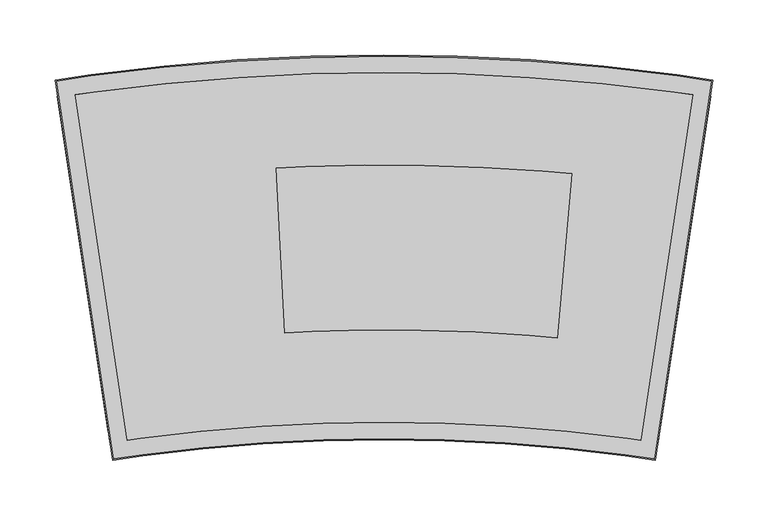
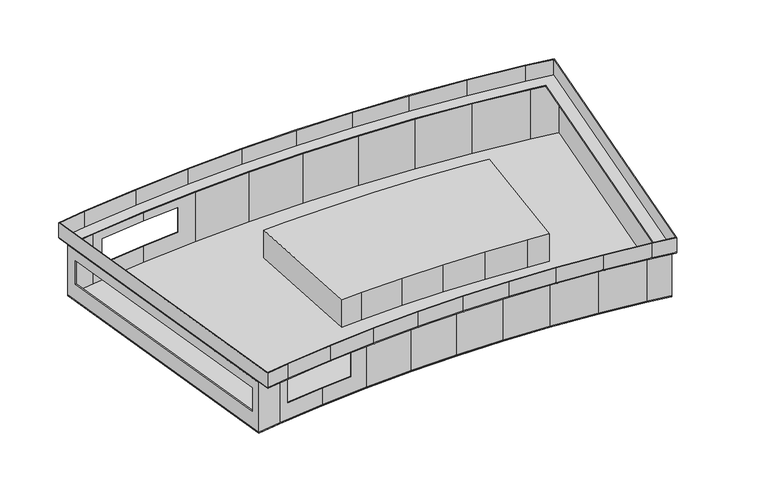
"""IFC4 building model written with IfcOpenShell, lengths in millimetres: proxy geometry, Techno_Конвектор встраиваемый_Usual_KVZ_R-350_85 : KVZ R 350-85_Л."""

from ifc_helpers import new_model, si_unit, frame, origin, place, context, project, spatial, polyline, ellipse_curve, outline, extrude, faceted_brep, source, transform, mapped, element, save
from ifc_brep_helpers import plane_surface, cylinder_surface, advanced_brep


def mechanical_equipment_df592ec2(model_context):
    return source(origin(), model_context, "Body", "SolidModel", [
        extrude(outline(polyline([(670.7692435, 67.3101927), (657.2874611, -82.0827172), (632.6097728, -79.8557091), (583.1480789, -76.800828), (533.6197227, -75.1475313), (484.0644126, -74.8971445), (434.5218784, -76.0498682), (409.7768593, -77.3273233), (402.0434472, 72.4731918), (428.909468, 73.8601431), (482.6985051, 75.1116717), (536.5014132, 74.8398231), (590.2750571, 73.0448153), (643.9763248, 69.7280873), (670.7692435, 67.3101927)])), frame((0.0, 0.0, -66.5), z_axis=(0.0, 0.0, 1.0), x_axis=(1.0, 0.0, 0.0)), (0.0, 0.0, 1.0), 35.0),
        extrude(outline(polyline([(796.6645806, 137.9083439), (748.7846029, -178.8939095), (721.3469609, -174.7471154), (666.2257584, -168.2869719), (610.9198778, -163.6674503), (555.4907642, -160.8936827), (500.0, -159.968751), (444.5092358, -160.8936827), (389.0801222, -163.6674503), (333.7742416, -168.2869719), (278.6530391, -174.7471154), (251.2153971, -178.8939095), (203.3354194, 137.9083439), (236.053588, 142.8532115), (301.7831718, 150.5566454), (367.7329761, 156.0652197), (433.8297302, 159.3728142), (500.0, 160.4757541), (566.1702698, 159.3728142), (632.2670239, 156.0652197), (698.2168282, 150.5566454), (763.946412, 142.8532115), (796.6645806, 137.9083439)])), frame((0.0, 0.0, -85.0), z_axis=(0.0, 0.0, 1.0), x_axis=(1.0, 0.0, 0.0)), (0.0, 0.0, 1.0), 1.2),
        faceted_brep([(203.3354194, 137.9083439, -20.5), (203.3354194, 137.9083439, -85.0), (251.2153971, -178.8939095, -85.0), (251.2153971, -178.8939095, -20.5), (205.3080028, 124.8565657, -33.0), (249.54169, -167.8196734, -33.0), (249.54169, -167.8196734, -63.0), (205.3080028, 124.8565657, -63.0), (748.7846029, -178.8939095, -20.5), (748.7846029, -178.8939095, -85.0), (796.6645806, 137.9083439, -85.0), (796.6645806, 137.9083439, -20.5), (204.7012705, 136.9011444, -85.0), (204.7012705, 136.9011444, -20.5), (252.2225966, -177.5280584, -20.5), (252.2225966, -177.5280584, -85.0), (250.7282153, -167.6403476, -33.0), (206.4945281, 125.0358914, -33.0), (206.4945281, 125.0358914, -63.0), (250.7282153, -167.6403476, -63.0), (747.7774034, -177.5280584, -85.0), (747.7774034, -177.5280584, -20.5), (795.2987295, 136.9011444, -20.5), (795.2987295, 136.9011444, -85.0), (278.6530391, -174.7471154, -85.0), (278.6530391, -174.7471154, -20.5), (278.4737134, -173.5605901, -20.5), (278.4737134, -173.5605901, -85.0), (333.7742416, -168.2869719, -85.0), (333.7742416, -168.2869719, -63.0), (288.1749289, -173.6311606, -63.0), (288.1749289, -173.6311606, -31.0), (333.7742416, -168.2869719, -31.0), (333.7742416, -168.2869719, -20.5), (333.634559, -167.0951293, -20.5), (333.634559, -167.0951293, -31.0), (288.0222438, -172.4408418, -31.0), (288.0222438, -172.4408418, -63.0), (333.634559, -167.0951293, -63.0), (333.634559, -167.0951293, -85.0), (389.0801222, -163.6674503, -85.0), (389.0801222, -163.6674503, -20.5), (370.4764869, -165.2213519, -31.0), (370.4764869, -165.2213519, -63.0), (388.9802379, -162.4716145, -20.5), (388.9802379, -162.4716145, -85.0), (370.3831254, -164.0249713, -63.0), (370.3831254, -164.0249713, -31.0), (444.5092358, -160.8936827, -85.0), (444.5092358, -160.8936827, -20.5), (444.4492608, -159.6951824, -20.5), (444.4492608, -159.6951824, -85.0), (500.0, -159.968751, -85.0), (500.0, -159.968751, -20.5), (499.9800009, -158.7689177, -20.5), (499.9800009, -158.7689177, -85.0), (555.4907642, -160.8936827, -85.0), (555.4907642, -160.8936827, -20.5), (555.5107633, -159.6938494, -20.5), (555.5107633, -159.6938494, -85.0), (610.9198778, -163.6674503, -85.0), (610.9198778, -163.6674503, -20.5), (610.9798528, -162.4689499, -20.5), (610.9798528, -162.4689499, -85.0), (666.2257584, -168.2869719, -85.0), (666.2257584, -168.2869719, -20.5), (666.3256427, -167.0911362, -20.5), (666.3256427, -167.0911362, -85.0), (721.3469609, -174.7471154, -85.0), (721.3469609, -174.7471154, -20.5), (721.4866435, -173.5552728, -20.5), (721.4866435, -173.5552728, -85.0), (763.946412, 142.8532115, -85.0), (763.946412, 142.8532115, -20.5), (763.7670862, 141.6666862, -20.5), (763.7670862, 141.6666862, -85.0), (698.2168282, 150.5566454, -85.0), (698.2168282, 150.5566454, -20.5), (698.0771456, 149.3648028, -20.5), (698.0771456, 149.3648028, -85.0), (632.2670239, 156.0652197, -85.0), (632.2670239, 156.0652197, -20.5), (632.1671396, 154.8693839, -20.5), (632.1671396, 154.8693839, -85.0), (566.1702698, 159.3728142, -85.0), (566.1702698, 159.3728142, -20.5), (566.1102948, 158.1743139, -20.5), (566.1102948, 158.1743139, -85.0), (500.0, 160.4757541, -85.0), (500.0, 160.4757541, -20.5), (499.9800009, 159.2759208, -20.5), (499.9800009, 159.2759208, -85.0), (433.8297302, 159.3728142, -85.0), (433.8297302, 159.3728142, -20.5), (433.8497293, 158.1729808, -20.5), (433.8497293, 158.1729808, -85.0), (367.7329761, 156.0652197, -85.0), (367.7329761, 156.0652197, -20.5), (367.7929511, 154.8667194, -20.5), (367.7929511, 154.8667194, -85.0), (301.7831718, 150.5566454, -85.0), (301.7831718, 150.5566454, -63.0), (345.5489679, 154.2122611, -63.0), (345.5489679, 154.2122611, -31.0), (301.7831718, 150.5566454, -31.0), (301.7831718, 150.5566454, -20.5), (301.8830561, 149.3608097, -20.5), (301.8830561, 149.3608097, -31.0), (345.6423294, 153.0158805, -31.0), (345.6423294, 153.0158805, -63.0), (301.8830561, 149.3608097, -63.0), (301.8830561, 149.3608097, -85.0), (236.053588, 142.8532115, -85.0), (236.053588, 142.8532115, -20.5), (247.4080183, 144.183938, -31.0), (247.4080183, 144.183938, -63.0), (236.1932706, 141.6613689, -20.5), (236.1932706, 141.6613689, -85.0), (247.5607033, 142.9936193, -63.0), (247.5607033, 142.9936193, -31.0)], [[[0, 1, 2, 3], [4, 5, 6, 7]], [[8, 9, 10, 11]], [[12, 13, 14, 15], [16, 17, 18, 19]], [[20, 21, 22, 23]], [[3, 2, 24, 25]], [[15, 14, 26, 27]], [[25, 24, 28, 29, 30, 31, 32, 33]], [[27, 26, 34, 35, 36, 37, 38, 39]], [[28, 40, 41, 33, 32, 42, 43, 29]], [[34, 44, 45, 39, 38, 46, 47, 35]], [[41, 40, 48, 49]], [[45, 44, 50, 51]], [[49, 48, 52, 53]], [[51, 50, 54, 55]], [[53, 52, 56, 57]], [[55, 54, 58, 59]], [[57, 56, 60, 61]], [[59, 58, 62, 63]], [[61, 60, 64, 65]], [[63, 62, 66, 67]], [[65, 64, 68, 69]], [[67, 66, 70, 71]], [[9, 8, 69, 68]], [[21, 20, 71, 70]], [[11, 10, 72, 73]], [[23, 22, 74, 75]], [[73, 72, 76, 77]], [[75, 74, 78, 79]], [[77, 76, 80, 81]], [[79, 78, 82, 83]], [[81, 80, 84, 85]], [[83, 82, 86, 87]], [[85, 84, 88, 89]], [[87, 86, 90, 91]], [[89, 88, 92, 93]], [[91, 90, 94, 95]], [[93, 92, 96, 97]], [[95, 94, 98, 99]], [[97, 96, 100, 101, 102, 103, 104, 105]], [[99, 98, 106, 107, 108, 109, 110, 111]], [[100, 112, 113, 105, 104, 114, 115, 101]], [[106, 116, 117, 111, 110, 118, 119, 107]], [[1, 0, 113, 112]], [[13, 12, 117, 116]], [[0, 3, 25, 33, 41, 49, 53, 57, 61, 65, 69, 8, 11, 73, 77, 81, 85, 89, 93, 97, 105, 113], [14, 13, 116, 106, 98, 94, 90, 86, 82, 78, 74, 22, 21, 70, 66, 62, 58, 54, 50, 44, 34, 26]], [[2, 1, 112, 100, 96, 92, 88, 84, 80, 76, 72, 10, 9, 68, 64, 60, 56, 52, 48, 40, 28, 24], [12, 15, 27, 39, 45, 51, 55, 59, 63, 67, 71, 20, 23, 75, 79, 83, 87, 91, 95, 99, 111, 117]], [[4, 17, 16, 5]], [[6, 19, 18, 7]], [[19, 6, 5, 16]], [[17, 4, 7, 18]], [[42, 47, 46, 43]], [[108, 103, 102, 109]], [[43, 46, 38, 37, 30, 29]], [[109, 102, 101, 115, 118, 110]], [[47, 42, 32, 31, 36, 35]], [[103, 108, 107, 119, 114, 104]], [[30, 37, 36, 31]], [[118, 115, 114, 119]]]),
        advanced_brep(
        [(780.6649176, 139.1128287, -19.3), (780.6649176, 139.1128287, -20.5), (733.1435915, -175.316374, -20.5), (733.1435915, -175.316374, -19.3), (797.5104139, 151.5349563, 0.0), (797.5104139, 151.5349563, -19.3), (745.565719, -192.1618704, -19.3), (745.565719, -192.1618704, 0.0), (798.8762649, 152.5421559, -18.5), (798.8762649, 152.5421559, 0.0), (746.5729186, -193.5277214, 0.0), (746.5729186, -193.5277214, -18.5), (266.8564085, -175.316374, -19.3), (266.8564085, -175.316374, -20.5), (219.3350824, 139.1128287, -20.5), (219.3350824, 139.1128287, -19.3), (254.434281, -192.1618704, 0.0), (254.434281, -192.1618704, -19.3), (202.4895861, 151.5349563, -19.3), (202.4895861, 151.5349563, 0.0), (253.4270814, -193.5277214, -18.5), (253.4270814, -193.5277214, 0.0), (201.1237351, 152.5421559, 0.0), (201.1237351, 152.5421559, -18.5), (796.5998465, 150.86349, -20.5), (744.8942527, -191.251303, -20.5), (255.1057473, -191.251303, -20.5), (203.4001535, 150.86349, -20.5), (234.0858231, 157.5238882, -18.5), (234.3517373, 155.5413643, -20.5), (236.2131365, 141.6636971, -20.5), (236.2131365, 141.6636971, -19.3), (234.2453716, 156.3343739, -19.3), (234.2453716, 156.3343739, 0.0), (234.0858231, 157.5238882, 0.0), (300.305432, 165.2847526, -18.5), (300.5051266, 163.2944678, -20.5), (301.9029885, 149.3624746, -20.5), (301.9029885, 149.3624746, -19.3), (300.4252487, 164.0905817, -19.3), (300.4252487, 164.0905817, 0.0), (300.305432, 165.2847526, 0.0), (719.379196, -189.4177922, -18.5), (719.6451101, -187.4352683, -20.5), (721.5065094, -173.5576011, -20.5), (721.5065094, -173.5576011, -19.3), (719.5387445, -188.2282779, -19.3), (719.5387445, -188.2282779, 0.0), (719.379196, -189.4177922, 0.0), (664.7480186, -183.0150791, -18.5), (664.9477132, -181.0247944, -20.5), (666.3455752, -167.0928011, -20.5), (666.3455752, -167.0928011, -19.3), (664.8678353, -181.8209083, -19.3), (664.8678353, -181.8209083, 0.0), (664.7480186, -183.0150791, 0.0), (366.7469032, 170.8343942, -18.5), (366.8801563, 168.8385598, -20.5), (367.812928, 154.8677191, -20.5), (367.812928, 154.8677191, -19.3), (366.8268551, 169.6368936, -19.3), (366.8268551, 169.6368936, 0.0), (366.7469032, 170.8343942, 0.0), (609.9338049, -178.4366248, -18.5), (610.067058, -176.4407904, -20.5), (610.9998296, -162.4699496, -20.5), (610.9998296, -162.4699496, -19.3), (610.0137567, -177.2391241, -19.3), (610.0137567, -177.2391241, 0.0), (609.9338049, -178.4366248, 0.0), (433.3364197, 174.1666474, -18.5), (433.4030833, 172.1674807, -20.5), (433.8697284, 158.1733142, -20.5), (433.8697284, 158.1733142, -19.3), (433.3764179, 172.9671474, -19.3), (433.3764179, 172.9671474, 0.0), (433.3364197, 174.1666474, 0.0), (500.0, 175.2778099, -18.5), (500.0, 173.2775321, -20.5), (500.0, 159.2755875, -20.5), (500.0, 159.2755875, -19.3), (500.0, 174.0776432, -19.3), (500.0, 174.0776432, 0.0), (500.0, 175.2778099, 0.0), (554.9974537, -175.6875159, -18.5), (555.0641173, -173.6883493, -20.5), (555.5307624, -159.6941827, -20.5), (555.5307624, -159.6941827, -19.3), (555.0374519, -174.4880159, -19.3), (555.0374519, -174.4880159, 0.0), (554.9974537, -175.6875159, 0.0), (500.0, -174.7708068, -18.5), (500.0, -172.770529, -20.5), (500.0, -158.7685843, -20.5), (500.0, -158.7685843, -19.3), (500.0, -173.5706401, -19.3), (500.0, -173.5706401, 0.0), (500.0, -174.7708068, 0.0), (566.6635803, 174.1666474, -18.5), (566.5969167, 172.1674807, -20.5), (566.1302716, 158.1733142, -20.5), (566.1302716, 158.1733142, -19.3), (566.6235821, 172.9671474, -19.3), (566.6235821, 172.9671474, 0.0), (566.6635803, 174.1666474, 0.0), (633.2530968, 170.8343942, -18.5), (633.1198437, 168.8385598, -20.5), (632.187072, 154.8677191, -20.5), (632.187072, 154.8677191, -19.3), (633.1731449, 169.6368936, -19.3), (633.1731449, 169.6368936, 0.0), (633.2530968, 170.8343942, 0.0), (699.694568, 165.2847526, -18.5), (699.4948734, 163.2944678, -20.5), (698.0970115, 149.3624746, -20.5), (698.0970115, 149.3624746, -19.3), (699.5747513, 164.0905817, -19.3), (699.5747513, 164.0905817, 0.0), (699.694568, 165.2847526, 0.0), (765.9141769, 157.5238882, -18.5), (765.6482627, 155.5413643, -20.5), (763.7868635, 141.6636971, -20.5), (763.7868635, 141.6636971, -19.3), (765.7546284, 156.3343739, -19.3), (765.7546284, 156.3343739, 0.0), (765.9141769, 157.5238882, 0.0), (445.0025463, -175.6875159, -18.5), (444.9358827, -173.6883493, -20.5), (444.4692376, -159.6941827, -20.5), (444.4692376, -159.6941827, -19.3), (444.9625481, -174.4880159, -19.3), (444.9625481, -174.4880159, 0.0), (445.0025463, -175.6875159, 0.0), (390.0661951, -178.4366248, -18.5), (389.932942, -176.4407904, -20.5), (389.0001704, -162.4699496, -20.5), (389.0001704, -162.4699496, -19.3), (389.9862433, -177.2391241, -19.3), (389.9862433, -177.2391241, 0.0), (390.0661951, -178.4366248, 0.0), (335.2519814, -183.0150791, -18.5), (335.0522868, -181.0247944, -20.5), (333.6544248, -167.0928011, -20.5), (333.6544248, -167.0928011, -19.3), (335.1321647, -181.8209083, -19.3), (335.1321647, -181.8209083, 0.0), (335.2519814, -183.0150791, 0.0), (280.620804, -189.4177922, -18.5), (280.3548899, -187.4352683, -20.5), (278.4934906, -173.5576011, -20.5), (278.4934906, -173.5576011, -19.3), (280.4612555, -188.2282779, -19.3), (280.4612555, -188.2282779, 0.0), (280.620804, -189.4177922, 0.0)],
        [
            (0, 1),
            (1, 2),
            (2, 3),
            (3, 0),
            (4, 5),
            (5, 6),
            (6, 7),
            (7, 4),
            (8, 9),
            (9, 10),
            (10, 11),
            (11, 8),
            (12, 13),
            (13, 14),
            (14, 15),
            (15, 12),
            (16, 17),
            (17, 18),
            (18, 19),
            (19, 16),
            (20, 21),
            (21, 22),
            (22, 23),
            (23, 20),
            (24, 8, ellipse_curve(frame((796.5998465, 150.86349, -18.5), z_axis=(0.5934980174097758, -0.8048354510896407, 0.0), x_axis=(0.8048354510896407, 0.5934980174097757, 0.0)), 2.8284271, 2.0)),
            (11, 25, ellipse_curve(frame((744.8942527, -191.251303, -18.5), z_axis=(0.8048354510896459, 0.5934980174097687, 0.0), x_axis=(-0.5934980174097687, 0.8048354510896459, 0.0)), 2.8284271, 2.0)),
            (25, 24),
            (26, 20, ellipse_curve(frame((255.1057473, -191.251303, -18.5), z_axis=(-0.8048354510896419, 0.5934980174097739, 0.0), x_axis=(-0.5934980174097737, -0.8048354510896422, 0.0)), 2.8284271, 2.0)),
            (23, 27, ellipse_curve(frame((203.4001535, 150.86349, -18.5), z_axis=(-0.5934980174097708, -0.8048354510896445, 0.0), x_axis=(0.8048354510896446, -0.5934980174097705, 0.0)), 2.8284271, 2.0)),
            (27, 26),
            (23, 28),
            (28, 29, ellipse_curve(frame((234.3517373, 155.5413643, -18.5), z_axis=(-0.991124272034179, -0.13293862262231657, 0.0), x_axis=(0.13293862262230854, -0.9911242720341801, 0.0)), 2.0002778, 2.0)),
            (29, 27),
            (14, 30),
            (30, 31),
            (31, 15),
            (18, 32),
            (32, 33),
            (33, 19),
            (22, 34),
            (34, 28),
            (28, 35),
            (35, 36, ellipse_curve(frame((300.5051266, 163.2944678, -18.5), z_axis=(-0.9950041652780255, -0.09983341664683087, 0.0), x_axis=(0.09983341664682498, -0.9950041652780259, 0.0)), 2.0002778, 2.0)),
            (36, 29),
            (30, 37),
            (37, 38),
            (38, 31),
            (32, 39),
            (39, 40),
            (40, 33),
            (34, 41),
            (41, 35),
            (11, 42),
            (42, 43, ellipse_curve(frame((719.6451101, -187.4352683, -18.5), z_axis=(0.9911242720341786, -0.1329386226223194, 0.0), x_axis=(-0.1329386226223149, -0.9911242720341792, 0.0)), 2.0002778, 2.0)),
            (43, 25),
            (2, 44),
            (44, 45),
            (45, 3),
            (6, 46),
            (46, 47),
            (47, 7),
            (10, 48),
            (48, 42),
            (42, 49),
            (49, 50, ellipse_curve(frame((664.9477132, -181.0247944, -18.5), z_axis=(0.9950041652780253, -0.09983341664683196, 0.0), x_axis=(-0.09983341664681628, -0.9950041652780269, 0.0)), 2.0002778, 2.0)),
            (50, 43),
            (44, 51),
            (51, 52),
            (52, 45),
            (46, 53),
            (53, 54),
            (54, 47),
            (48, 55),
            (55, 49),
            (35, 56),
            (56, 57, ellipse_curve(frame((366.8801563, 168.8385598, -18.5), z_axis=(-0.997778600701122, -0.0666172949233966, 0.0), x_axis=(0.06661729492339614, -0.9977786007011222, 0.0)), 2.0002778, 2.0)),
            (57, 36),
            (37, 58),
            (58, 59),
            (59, 38),
            (39, 60),
            (60, 61),
            (61, 40),
            (41, 62),
            (62, 56),
            (49, 63),
            (63, 64, ellipse_curve(frame((610.067058, -176.4407904, -18.5), z_axis=(0.997778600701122, -0.0666172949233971, 0.0), x_axis=(-0.06661729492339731, -0.9977786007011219, 0.0)), 2.0002778, 2.0)),
            (64, 50),
            (51, 65),
            (65, 66),
            (66, 52),
            (53, 67),
            (67, 68),
            (68, 54),
            (55, 69),
            (69, 63),
            (56, 70),
            (70, 71, ellipse_curve(frame((433.4030833, 172.1674807, -18.5), z_axis=(-0.9994444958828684, -0.03332716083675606, 0.0), x_axis=(0.033327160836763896, -0.9994444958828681, 0.0)), 2.0002778, 2.0)),
            (71, 57),
            (58, 72),
            (72, 73),
            (73, 59),
            (60, 74),
            (74, 75),
            (75, 61),
            (62, 76),
            (76, 70),
            (70, 77),
            (77, 78, ellipse_curve(frame((500.0, 173.2775321, -18.5), z_axis=(-1.0, 0.0, 0.0), x_axis=(0.0, -1.0, 0.0)), 2.0002778, 2.0)),
            (78, 71),
            (72, 79),
            (79, 80),
            (80, 73),
            (74, 81),
            (81, 82),
            (82, 75),
            (76, 83),
            (83, 77),
            (63, 84),
            (84, 85, ellipse_curve(frame((555.0641173, -173.6883493, -18.5), z_axis=(0.9994444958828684, -0.03332716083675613, 0.0), x_axis=(-0.03332716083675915, -0.9994444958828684, 0.0)), 2.0002778, 2.0)),
            (85, 64),
            (65, 86),
            (86, 87),
            (87, 66),
            (67, 88),
            (88, 89),
            (89, 68),
            (69, 90),
            (90, 84),
            (84, 91),
            (91, 92, ellipse_curve(frame((500.0, -172.770529, -18.5), z_axis=(1.0, 0.0, 0.0), x_axis=(0.0, -1.0, 0.0)), 2.0002778, 2.0)),
            (92, 85),
            (86, 93),
            (93, 94),
            (94, 87),
            (88, 95),
            (95, 96),
            (96, 89),
            (90, 97),
            (97, 91),
            (77, 98),
            (98, 99, ellipse_curve(frame((566.5969167, 172.1674807, -18.5), z_axis=(-0.9994444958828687, 0.03332716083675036, 0.0), x_axis=(-0.03332716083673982, -0.9994444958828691, 0.0)), 2.0002778, 2.0)),
            (99, 78),
            (79, 100),
            (100, 101),
            (101, 80),
            (81, 102),
            (102, 103),
            (103, 82),
            (83, 104),
            (104, 98),
            (98, 105),
            (105, 106, ellipse_curve(frame((633.1198437, 168.8385598, -18.5), z_axis=(-0.9977786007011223, 0.06661729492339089, 0.0), x_axis=(-0.06661729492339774, -0.9977786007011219, 0.0)), 2.0002778, 2.0)),
            (106, 99),
            (100, 107),
            (107, 108),
            (108, 101),
            (102, 109),
            (109, 110),
            (110, 103),
            (104, 111),
            (111, 105),
            (105, 112),
            (112, 113, ellipse_curve(frame((699.4948734, 163.2944678, -18.5), z_axis=(-0.9950041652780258, 0.09983341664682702, 0.0), x_axis=(-0.09983341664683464, -0.9950041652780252, 0.0)), 2.0002778, 2.0)),
            (113, 106),
            (107, 114),
            (114, 115),
            (115, 108),
            (109, 116),
            (116, 117),
            (117, 110),
            (111, 118),
            (118, 112),
            (112, 119),
            (119, 120, ellipse_curve(frame((765.6482627, 155.5413643, -18.5), z_axis=(-0.99112427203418, 0.1329386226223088, 0.0), x_axis=(-0.13293862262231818, -0.9911242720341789, 0.0)), 2.0002778, 2.0)),
            (120, 113),
            (114, 121),
            (121, 122),
            (122, 115),
            (116, 123),
            (123, 124),
            (124, 117),
            (118, 125),
            (125, 119),
            (119, 8),
            (24, 120),
            (121, 1),
            (0, 122),
            (123, 5),
            (4, 124),
            (125, 9),
            (91, 126),
            (126, 127, ellipse_curve(frame((444.9358827, -173.6883493, -18.5), z_axis=(0.9994444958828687, 0.03332716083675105, 0.0), x_axis=(0.03332716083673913, -0.9994444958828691, 0.0)), 2.0002778, 2.0)),
            (127, 92),
            (93, 128),
            (128, 129),
            (129, 94),
            (95, 130),
            (130, 131),
            (131, 96),
            (97, 132),
            (132, 126),
            (126, 133),
            (133, 134, ellipse_curve(frame((389.932942, -176.4407904, -18.5), z_axis=(0.9977786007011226, 0.06661729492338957, 0.0), x_axis=(0.06661729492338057, -0.997778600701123, 0.0)), 2.0002778, 2.0)),
            (134, 127),
            (128, 135),
            (135, 136),
            (136, 129),
            (130, 137),
            (137, 138),
            (138, 131),
            (132, 139),
            (139, 133),
            (133, 140),
            (140, 141, ellipse_curve(frame((335.0522868, -181.0247944, -18.5), z_axis=(0.995004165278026, 0.09983341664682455, 0.0), x_axis=(0.09983341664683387, -0.9950041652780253, 0.0)), 2.0002778, 2.0)),
            (141, 134),
            (135, 142),
            (142, 143),
            (143, 136),
            (137, 144),
            (144, 145),
            (145, 138),
            (139, 146),
            (146, 140),
            (140, 147),
            (147, 148, ellipse_curve(frame((280.3548899, -187.4352683, -18.5), z_axis=(0.9911242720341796, 0.13293862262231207, 0.0), x_axis=(0.13293862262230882, -0.9911242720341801, 0.0)), 2.0002778, 2.0)),
            (148, 141),
            (142, 149),
            (149, 150),
            (150, 143),
            (144, 151),
            (151, 152),
            (152, 145),
            (146, 153),
            (153, 147),
            (147, 20),
            (26, 148),
            (13, 149),
            (12, 150),
            (17, 151),
            (16, 152),
            (21, 153),
        ],
        [
            plane_surface(frame((780.6649176, 139.1128287, -20.5), z_axis=(-0.9887710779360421, 0.14943813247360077, 0.0), x_axis=(-0.14943813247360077, -0.9887710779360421, 0.0))),
            plane_surface(frame((797.5104139, 151.5349563, -19.3), z_axis=(-0.9887710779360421, 0.14943813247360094, 0.0), x_axis=(-0.14943813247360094, -0.9887710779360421, 0.0))),
            plane_surface(frame((798.8762649, 152.5421559, 0.0), z_axis=(0.9887710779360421, -0.1494381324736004, 0.0), x_axis=(-0.1494381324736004, -0.9887710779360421, 0.0))),
            plane_surface(frame((266.8564085, -175.316374, -20.5), z_axis=(0.9887710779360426, 0.14943813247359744, 0.0), x_axis=(-0.14943813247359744, 0.9887710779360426, 0.0))),
            plane_surface(frame((254.434281, -192.1618704, -19.3), z_axis=(0.9887710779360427, 0.14943813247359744, 0.0), x_axis=(-0.14943813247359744, 0.9887710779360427, 0.0))),
            plane_surface(frame((253.4270814, -193.5277214, 0.0), z_axis=(-0.9887710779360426, -0.14943813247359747, 0.0), x_axis=(-0.14943813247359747, 0.9887710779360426, 0.0))),
            cylinder_surface(frame((796.8987228, 152.8410321, -18.5), z_axis=(0.14943813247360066, 0.9887710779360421, 0.0), x_axis=(0.9887710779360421, -0.14943813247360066, 0.0)), 2.0),
            cylinder_surface(frame((255.4046236, -193.2288451, -18.5), z_axis=(0.14943813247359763, -0.9887710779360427, 0.0), x_axis=(-0.9887710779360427, -0.14943813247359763, 0.0)), 2.0),
            cylinder_surface(frame((201.4226113, 150.5646137, -18.5), z_axis=(-0.9887710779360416, -0.14943813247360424, 0.0), x_axis=(-0.14943813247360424, 0.9887710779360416, 0.0)), 2.0),
            plane_surface(frame((219.3350824, 139.1128287, -20.5), z_axis=(0.1494381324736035, -0.9887710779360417, 0.0), x_axis=(0.9887710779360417, 0.1494381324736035, 0.0))),
            plane_surface(frame((202.4895861, 151.5349563, -19.3), z_axis=(0.14943813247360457, -0.9887710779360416, 0.0), x_axis=(0.9887710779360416, 0.14943813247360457, 0.0))),
            plane_surface(frame((201.1237351, 152.5421559, 0.0), z_axis=(-0.14943813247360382, 0.9887710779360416, 0.0), x_axis=(0.9887710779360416, 0.14943813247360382, 0.0))),
            cylinder_surface(frame((234.3186275, 155.5374839, -18.5), z_axis=(-0.99320216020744, -0.11640218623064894, 0.0), x_axis=(-0.11640218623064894, 0.99320216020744, 0.0)), 2.0),
            plane_surface(frame((236.2131365, 141.6636971, -20.5), z_axis=(0.11640218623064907, -0.99320216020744, 0.0), x_axis=(0.99320216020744, 0.11640218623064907, 0.0))),
            plane_surface(frame((234.2453716, 156.3343739, -19.3), z_axis=(0.11640218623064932, -0.99320216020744, 0.0), x_axis=(0.99320216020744, 0.11640218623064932, 0.0))),
            plane_surface(frame((234.0858231, 157.5238882, 0.0), z_axis=(-0.11640218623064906, 0.99320216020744, 0.0), x_axis=(0.99320216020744, 0.11640218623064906, 0.0))),
            cylinder_surface(frame((746.8717948, -191.5501792, -18.5), z_axis=(0.9887710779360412, -0.14943813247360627, 0.0), x_axis=(-0.14943813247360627, -0.9887710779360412, 0.0)), 2.0),
            plane_surface(frame((733.1435915, -175.316374, -20.5), z_axis=(0.14943813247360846, 0.9887710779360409, 0.0), x_axis=(-0.9887710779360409, 0.14943813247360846, 0.0))),
            plane_surface(frame((745.565719, -192.1618704, -19.3), z_axis=(0.1494381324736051, 0.9887710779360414, 0.0), x_axis=(-0.9887710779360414, 0.1494381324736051, 0.0))),
            plane_surface(frame((746.5729186, -193.5277214, 0.0), z_axis=(-0.14943813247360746, -0.988771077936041, 0.0), x_axis=(-0.988771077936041, 0.14943813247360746, 0.0))),
            cylinder_surface(frame((719.6120003, -187.4313879, -18.5), z_axis=(0.9932021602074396, -0.11640218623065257, 0.0), x_axis=(-0.11640218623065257, -0.9932021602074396, 0.0)), 2.0),
            plane_surface(frame((721.5065094, -173.5576011, -20.5), z_axis=(0.1164021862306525, 0.9932021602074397, 0.0), x_axis=(-0.9932021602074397, 0.1164021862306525, 0.0))),
            plane_surface(frame((719.5387445, -188.2282779, -19.3), z_axis=(0.11640218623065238, 0.9932021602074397, 0.0), x_axis=(-0.9932021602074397, 0.11640218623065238, 0.0))),
            plane_surface(frame((719.379196, -189.4177922, 0.0), z_axis=(-0.11640218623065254, -0.9932021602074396, 0.0), x_axis=(-0.9932021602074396, 0.11640218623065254, 0.0))),
            cylinder_surface(frame((300.4719058, 163.291693, -18.5), z_axis=(-0.996529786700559, -0.08323691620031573, 0.0), x_axis=(-0.08323691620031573, 0.996529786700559, 0.0)), 2.0),
            plane_surface(frame((301.9029885, 149.3624746, -20.5), z_axis=(0.08323691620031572, -0.996529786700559, 0.0), x_axis=(0.996529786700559, 0.08323691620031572, 0.0))),
            plane_surface(frame((300.4252487, 164.0905817, -19.3), z_axis=(0.08323691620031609, -0.996529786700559, 0.0), x_axis=(0.996529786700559, 0.08323691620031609, 0.0))),
            plane_surface(frame((300.305432, 165.2847526, 0.0), z_axis=(-0.08323691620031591, 0.996529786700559, 0.0), x_axis=(0.996529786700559, 0.08323691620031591, 0.0))),
            cylinder_surface(frame((664.9144924, -181.0220195, -18.5), z_axis=(0.9965297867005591, -0.08323691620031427, 0.0), x_axis=(-0.08323691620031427, -0.9965297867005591, 0.0)), 2.0),
            plane_surface(frame((666.3455752, -167.0928011, -20.5), z_axis=(0.08323691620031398, 0.9965297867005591, 0.0), x_axis=(-0.9965297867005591, 0.08323691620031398, 0.0))),
            plane_surface(frame((664.8678353, -181.8209083, -19.3), z_axis=(0.0832369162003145, 0.9965297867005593, 0.0), x_axis=(-0.9965297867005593, 0.0832369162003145, 0.0))),
            plane_surface(frame((664.7480186, -183.0150791, 0.0), z_axis=(-0.0832369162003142, -0.9965297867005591, 0.0), x_axis=(-0.9965297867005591, 0.0832369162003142, 0.0))),
            cylinder_surface(frame((366.8468615, 168.8368937, -18.5), z_axis=(-0.9987502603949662, -0.04997916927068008, 0.0), x_axis=(-0.04997916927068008, 0.9987502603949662, 0.0)), 2.0),
            plane_surface(frame((367.812928, 154.8677191, -20.5), z_axis=(0.049979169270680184, -0.9987502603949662, 0.0), x_axis=(0.9987502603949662, 0.049979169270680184, 0.0))),
            plane_surface(frame((366.8268551, 169.6368936, -19.3), z_axis=(0.049979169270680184, -0.9987502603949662, 0.0), x_axis=(0.9987502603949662, 0.049979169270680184, 0.0))),
            plane_surface(frame((366.7469032, 170.8343942, 0.0), z_axis=(-0.049979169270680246, 0.9987502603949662, 0.0), x_axis=(0.9987502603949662, 0.049979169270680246, 0.0))),
            cylinder_surface(frame((433.3697515, 172.1669251, -18.5), z_axis=(-0.9998611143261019, -0.016665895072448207, 0.0), x_axis=(-0.016665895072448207, 0.9998611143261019, 0.0)), 2.0),
            plane_surface(frame((433.8697284, 158.1733142, -20.5), z_axis=(0.01666589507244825, -0.9998611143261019, 0.0), x_axis=(0.9998611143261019, 0.01666589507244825, 0.0))),
            plane_surface(frame((433.3764179, 172.9671474, -19.3), z_axis=(0.0166658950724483, -0.9998611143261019, 0.0), x_axis=(0.9998611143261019, 0.0166658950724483, 0.0))),
            plane_surface(frame((433.3364197, 174.1666474, 0.0), z_axis=(-0.01666589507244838, 0.9998611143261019, 0.0), x_axis=(0.9998611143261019, 0.01666589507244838, 0.0))),
            cylinder_surface(frame((610.0337632, -176.4391243, -18.5), z_axis=(0.9987502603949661, -0.04997916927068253, 0.0), x_axis=(-0.04997916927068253, -0.9987502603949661, 0.0)), 2.0),
            plane_surface(frame((610.9998296, -162.4699496, -20.5), z_axis=(0.04997916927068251, 0.9987502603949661, 0.0), x_axis=(-0.9987502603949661, 0.04997916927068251, 0.0))),
            plane_surface(frame((610.0137567, -177.2391241, -19.3), z_axis=(0.04997916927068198, 0.9987502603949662, 0.0), x_axis=(-0.9987502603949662, 0.04997916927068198, 0.0))),
            plane_surface(frame((609.9338049, -178.4366248, 0.0), z_axis=(-0.049979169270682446, -0.9987502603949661, 0.0), x_axis=(-0.9987502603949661, 0.049979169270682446, 0.0))),
            cylinder_surface(frame((555.0307855, -173.6877937, -18.5), z_axis=(0.999861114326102, -0.016665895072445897, 0.0), x_axis=(-0.016665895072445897, -0.999861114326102, 0.0)), 2.0),
            plane_surface(frame((555.5307624, -159.6941827, -20.5), z_axis=(0.016665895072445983, 0.9998611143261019, 0.0), x_axis=(-0.9998611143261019, 0.016665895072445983, 0.0))),
            plane_surface(frame((555.0374519, -174.4880159, -19.3), z_axis=(0.016665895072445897, 0.9998611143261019, 0.0), x_axis=(-0.9998611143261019, 0.016665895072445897, 0.0))),
            plane_surface(frame((554.9974537, -175.6875159, 0.0), z_axis=(-0.0166658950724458, -0.9998611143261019, 0.0), x_axis=(-0.9998611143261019, 0.0166658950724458, 0.0))),
            cylinder_surface(frame((499.9666682, 173.2780877, -18.5), z_axis=(-0.999861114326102, 0.016665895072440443, 0.0), x_axis=(0.016665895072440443, 0.999861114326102, 0.0)), 2.0),
            plane_surface(frame((500.0, 159.2755875, -20.5), z_axis=(-0.016665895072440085, -0.999861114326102, 0.0), x_axis=(0.999861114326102, -0.016665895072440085, 0.0))),
            plane_surface(frame((500.0, 174.0776432, -19.3), z_axis=(-0.01666589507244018, -0.999861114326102, 0.0), x_axis=(0.999861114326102, -0.01666589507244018, 0.0))),
            plane_surface(frame((500.0, 175.2778099, 0.0), z_axis=(0.016665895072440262, 0.999861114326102, 0.0), x_axis=(0.999861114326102, -0.016665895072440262, 0.0))),
            cylinder_surface(frame((566.563622, 172.1691469, -18.5), z_axis=(-0.9987502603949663, 0.049979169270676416, 0.0), x_axis=(0.049979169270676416, 0.9987502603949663, 0.0)), 2.0),
            plane_surface(frame((566.1302716, 158.1733142, -20.5), z_axis=(-0.04997916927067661, -0.9987502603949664, 0.0), x_axis=(0.9987502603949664, -0.04997916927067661, 0.0))),
            plane_surface(frame((566.6235821, 172.9671474, -19.3), z_axis=(-0.04997916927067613, -0.9987502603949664, 0.0), x_axis=(0.9987502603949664, -0.04997916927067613, 0.0))),
            plane_surface(frame((566.6635803, 174.1666474, 0.0), z_axis=(0.04997916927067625, 0.9987502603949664, 0.0), x_axis=(0.9987502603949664, -0.04997916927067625, 0.0))),
            cylinder_surface(frame((633.086623, 168.8413346, -18.5), z_axis=(-0.9965297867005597, 0.08323691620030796, 0.0), x_axis=(0.08323691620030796, 0.9965297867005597, 0.0)), 2.0),
            plane_surface(frame((632.187072, 154.8677191, -20.5), z_axis=(-0.08323691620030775, -0.9965297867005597, 0.0), x_axis=(0.9965297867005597, -0.08323691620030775, 0.0))),
            plane_surface(frame((633.1731449, 169.6368936, -19.3), z_axis=(-0.08323691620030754, -0.9965297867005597, 0.0), x_axis=(0.9965297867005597, -0.08323691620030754, 0.0))),
            plane_surface(frame((633.2530968, 170.8343942, 0.0), z_axis=(0.08323691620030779, 0.9965297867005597, 0.0), x_axis=(0.9965297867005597, -0.08323691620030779, 0.0))),
            cylinder_surface(frame((699.4617636, 163.2983483, -18.5), z_axis=(-0.99320216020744, 0.11640218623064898, 0.0), x_axis=(0.11640218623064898, 0.99320216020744, 0.0)), 2.0),
            plane_surface(frame((698.0970115, 149.3624746, -20.5), z_axis=(-0.11640218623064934, -0.99320216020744, 0.0), x_axis=(0.99320216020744, -0.11640218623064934, 0.0))),
            plane_surface(frame((699.5747513, 164.0905817, -19.3), z_axis=(-0.11640218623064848, -0.9932021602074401, 0.0), x_axis=(0.9932021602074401, -0.11640218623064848, 0.0))),
            plane_surface(frame((699.694568, 165.2847526, 0.0), z_axis=(0.11640218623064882, 0.99320216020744, 0.0), x_axis=(0.99320216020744, -0.11640218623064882, 0.0))),
            cylinder_surface(frame((765.6153006, 155.5463461, -18.5), z_axis=(-0.9887710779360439, 0.14943813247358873, 0.0), x_axis=(0.14943813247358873, 0.9887710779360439, 0.0)), 2.0),
            plane_surface(frame((763.7868635, 141.6636971, -20.5), z_axis=(-0.14943813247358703, -0.9887710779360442, 0.0), x_axis=(0.9887710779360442, -0.14943813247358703, 0.0))),
            plane_surface(frame((765.7546284, 156.3343739, -19.3), z_axis=(-0.1494381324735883, -0.988771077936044, 0.0), x_axis=(0.988771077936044, -0.1494381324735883, 0.0))),
            plane_surface(frame((765.9141769, 157.5238882, 0.0), z_axis=(0.14943813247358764, 0.988771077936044, 0.0), x_axis=(0.988771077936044, -0.14943813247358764, 0.0))),
            cylinder_surface(frame((499.9666682, -172.7710846, -18.5), z_axis=(0.9998611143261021, 0.016665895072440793, 0.0), x_axis=(0.016665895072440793, -0.9998611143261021, 0.0)), 2.0),
            plane_surface(frame((500.0, -158.7685843, -20.5), z_axis=(-0.01666589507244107, 0.999861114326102, 0.0), x_axis=(-0.999861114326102, -0.01666589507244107, 0.0))),
            plane_surface(frame((500.0, -173.5706401, -19.3), z_axis=(-0.01666589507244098, 0.999861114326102, 0.0), x_axis=(-0.999861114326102, -0.01666589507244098, 0.0))),
            plane_surface(frame((500.0, -174.7708068, 0.0), z_axis=(0.01666589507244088, -0.999861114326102, 0.0), x_axis=(-0.999861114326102, -0.01666589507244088, 0.0))),
            cylinder_surface(frame((444.9025879, -173.6900154, -18.5), z_axis=(0.9987502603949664, 0.04997916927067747, 0.0), x_axis=(0.04997916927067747, -0.9987502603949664, 0.0)), 2.0),
            plane_surface(frame((444.4692376, -159.6941827, -20.5), z_axis=(-0.049979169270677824, 0.9987502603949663, 0.0), x_axis=(-0.9987502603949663, -0.049979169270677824, 0.0))),
            plane_surface(frame((444.9625481, -174.4880159, -19.3), z_axis=(-0.04997916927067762, 0.9987502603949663, 0.0), x_axis=(-0.9987502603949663, -0.04997916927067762, 0.0))),
            plane_surface(frame((445.0025463, -175.6875159, 0.0), z_axis=(0.04997916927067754, -0.9987502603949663, 0.0), x_axis=(-0.9987502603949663, -0.04997916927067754, 0.0))),
            cylinder_surface(frame((389.8997213, -176.4435652, -18.5), z_axis=(0.99652978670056, 0.08323691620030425, 0.0), x_axis=(0.08323691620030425, -0.99652978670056, 0.0)), 2.0),
            plane_surface(frame((389.0001704, -162.4699496, -20.5), z_axis=(-0.0832369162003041, 0.99652978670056, 0.0), x_axis=(-0.99652978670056, -0.0832369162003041, 0.0))),
            plane_surface(frame((389.9862433, -177.2391241, -19.3), z_axis=(-0.08323691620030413, 0.99652978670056, 0.0), x_axis=(-0.99652978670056, -0.08323691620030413, 0.0))),
            plane_surface(frame((390.0661951, -178.4366248, 0.0), z_axis=(0.08323691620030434, -0.99652978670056, 0.0), x_axis=(-0.99652978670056, -0.08323691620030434, 0.0))),
            cylinder_surface(frame((335.019177, -181.0286748, -18.5), z_axis=(0.9932021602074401, 0.11640218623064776, 0.0), x_axis=(0.11640218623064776, -0.9932021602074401, 0.0)), 2.0),
            plane_surface(frame((333.6544248, -167.0928011, -20.5), z_axis=(-0.11640218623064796, 0.9932021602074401, 0.0), x_axis=(-0.9932021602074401, -0.11640218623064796, 0.0))),
            plane_surface(frame((335.1321647, -181.8209083, -19.3), z_axis=(-0.1164021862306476, 0.9932021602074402, 0.0), x_axis=(-0.9932021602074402, -0.1164021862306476, 0.0))),
            plane_surface(frame((335.2519814, -183.0150791, 0.0), z_axis=(0.11640218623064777, -0.9932021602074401, 0.0), x_axis=(-0.9932021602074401, -0.11640218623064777, 0.0))),
            cylinder_surface(frame((280.3219278, -187.4402501, -18.5), z_axis=(0.9887710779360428, 0.1494381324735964, 0.0), x_axis=(0.1494381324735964, -0.9887710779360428, 0.0)), 2.0),
            plane_surface(frame((280.3548899, -187.4352683, -20.5), z_axis=(0.0, 0.0, -1.0), x_axis=(-0.9887710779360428, -0.14943813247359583, 0.0))),
            plane_surface(frame((278.4934906, -173.5576011, -20.5), z_axis=(-0.14943813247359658, 0.9887710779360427, 0.0), x_axis=(-0.9887710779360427, -0.14943813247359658, 0.0))),
            plane_surface(frame((278.4934906, -173.5576011, -19.3), z_axis=(0.0, 0.0, 1.0), x_axis=(-0.9887710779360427, -0.14943813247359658, 0.0))),
            plane_surface(frame((280.4612555, -188.2282779, -19.3), z_axis=(-0.14943813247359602, 0.9887710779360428, 0.0), x_axis=(-0.9887710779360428, -0.14943813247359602, 0.0))),
            plane_surface(frame((280.4612555, -188.2282779, 0.0), z_axis=(0.0, 0.0, 1.0), x_axis=(-0.9887710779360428, -0.14943813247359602, 0.0))),
            plane_surface(frame((280.620804, -189.4177922, 0.0), z_axis=(0.14943813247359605, -0.9887710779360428, 0.0), x_axis=(-0.9887710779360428, -0.14943813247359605, 0.0))),
        ],
        [
            (0, [[1, 2, 3, 4]]),
            (1, [[5, 6, 7, 8]]),
            (2, [[9, 10, 11, 12]]),
            (3, [[13, 14, 15, 16]]),
            (4, [[17, 18, 19, 20]]),
            (5, [[21, 22, 23, 24]]),
            (6, [[25, -12, 26, 27]]),
            (7, [[28, -24, 29, 30]]),
            (8, [[-29, 31, 32, 33]]),
            (9, [[-15, 34, 35, 36]]),
            (10, [[-19, 37, 38, 39]]),
            (11, [[-23, 40, 41, -31]]),
            (12, [[-32, 42, 43, 44]]),
            (13, [[-35, 45, 46, 47]]),
            (14, [[-38, 48, 49, 50]]),
            (15, [[-41, 51, 52, -42]]),
            (16, [[-26, 53, 54, 55]]),
            (17, [[-3, 56, 57, 58]]),
            (18, [[-7, 59, 60, 61]]),
            (19, [[-11, 62, 63, -53]]),
            (20, [[-54, 64, 65, 66]]),
            (21, [[-57, 67, 68, 69]]),
            (22, [[-60, 70, 71, 72]]),
            (23, [[-63, 73, 74, -64]]),
            (24, [[-43, 75, 76, 77]]),
            (25, [[-46, 78, 79, 80]]),
            (26, [[-49, 81, 82, 83]]),
            (27, [[-52, 84, 85, -75]]),
            (28, [[-65, 86, 87, 88]]),
            (29, [[-68, 89, 90, 91]]),
            (30, [[-71, 92, 93, 94]]),
            (31, [[-74, 95, 96, -86]]),
            (32, [[-76, 97, 98, 99]]),
            (33, [[-79, 100, 101, 102]]),
            (34, [[-82, 103, 104, 105]]),
            (35, [[-85, 106, 107, -97]]),
            (36, [[-98, 108, 109, 110]]),
            (37, [[-101, 111, 112, 113]]),
            (38, [[-104, 114, 115, 116]]),
            (39, [[-107, 117, 118, -108]]),
            (40, [[-87, 119, 120, 121]]),
            (41, [[-90, 122, 123, 124]]),
            (42, [[-93, 125, 126, 127]]),
            (43, [[-96, 128, 129, -119]]),
            (44, [[-120, 130, 131, 132]]),
            (45, [[-123, 133, 134, 135]]),
            (46, [[-126, 136, 137, 138]]),
            (47, [[-129, 139, 140, -130]]),
            (48, [[-109, 141, 142, 143]]),
            (49, [[-112, 144, 145, 146]]),
            (50, [[-115, 147, 148, 149]]),
            (51, [[-118, 150, 151, -141]]),
            (52, [[-142, 152, 153, 154]]),
            (53, [[-145, 155, 156, 157]]),
            (54, [[-148, 158, 159, 160]]),
            (55, [[-151, 161, 162, -152]]),
            (56, [[-153, 163, 164, 165]]),
            (57, [[-156, 166, 167, 168]]),
            (58, [[-159, 169, 170, 171]]),
            (59, [[-162, 172, 173, -163]]),
            (60, [[-164, 174, 175, 176]]),
            (61, [[-167, 177, 178, 179]]),
            (62, [[-170, 180, 181, 182]]),
            (63, [[-173, 183, 184, -174]]),
            (64, [[-175, 185, -25, 186]]),
            (65, [[-178, 187, -1, 188]]),
            (66, [[-181, 189, -5, 190]]),
            (67, [[-184, 191, -9, -185]]),
            (68, [[-131, 192, 193, 194]]),
            (69, [[-134, 195, 196, 197]]),
            (70, [[-137, 198, 199, 200]]),
            (71, [[-140, 201, 202, -192]]),
            (72, [[-193, 203, 204, 205]]),
            (73, [[-196, 206, 207, 208]]),
            (74, [[-199, 209, 210, 211]]),
            (75, [[-202, 212, 213, -203]]),
            (76, [[-204, 214, 215, 216]]),
            (77, [[-207, 217, 218, 219]]),
            (78, [[-210, 220, 221, 222]]),
            (79, [[-213, 223, 224, -214]]),
            (80, [[-215, 225, 226, 227]]),
            (81, [[-218, 228, 229, 230]]),
            (82, [[-221, 231, 232, 233]]),
            (83, [[-224, 234, 235, -225]]),
            (84, [[-226, 236, -28, 237]]),
            (85, [[-216, -227, -237, -30, -33, -44, -77, -99, -110, -143, -154, -165, -176, -186, -27, -55, -66, -88, -121, -132, -194, -205], [238, -228, -217, -206, -195, -133, -122, -89, -67, -56, -2, -187, -177, -166, -155, -144, -111, -100, -78, -45, -34, -14]]),
            (86, [[-229, -238, -13, 239]]),
            (87, [[240, -231, -220, -209, -198, -136, -125, -92, -70, -59, -6, -189, -180, -169, -158, -147, -114, -103, -81, -48, -37, -18], [-219, -230, -239, -16, -36, -47, -80, -102, -113, -146, -157, -168, -179, -188, -4, -58, -69, -91, -124, -135, -197, -208]]),
            (88, [[-232, -240, -17, 241]]),
            (89, [[242, -234, -223, -212, -201, -139, -128, -95, -73, -62, -10, -191, -183, -172, -161, -150, -117, -106, -84, -51, -40, -22], [-222, -233, -241, -20, -39, -50, -83, -105, -116, -149, -160, -171, -182, -190, -8, -61, -72, -94, -127, -138, -200, -211]]),
            (90, [[-235, -242, -21, -236]]),
        ],
    ),
    ])


if __name__ == "__main__":
    model = new_model("IFC4")
    model_context = context("Model", 3, world=origin())
    ifc_project = project(units=[si_unit("LENGTHUNIT", "METRE", prefix="MILLI")], contexts=[model_context])
    site = spatial("IfcSite", under=ifc_project)
    building = spatial("IfcBuilding", under=site)
    placement = place(None, origin())
    mechanical_equipment_shape = mechanical_equipment_df592ec2(model_context)
    element("IfcBuildingElementProxy", 1, Name="Techno_Конвектор встраиваемый_Usual_KVZ_R-350_85 : KVZ R 350-85_Л", ObjectType="Techno_Конвектор встраиваемый_Usual_KVZ_R-350_85 : KVZ R 350-85_Л", at=placement, inside=building, context=model_context, shape_type="MappedRepresentation", body=[
        mapped(mechanical_equipment_shape, transform((0.0, 0.0, 0.0), x_axis=(1.0, 0.0, 0.0), y_axis=(0.0, 1.0, 0.0), z_axis=(0.0, 0.0, 1.0))),
    ])
    save(model, "model.ifc")
